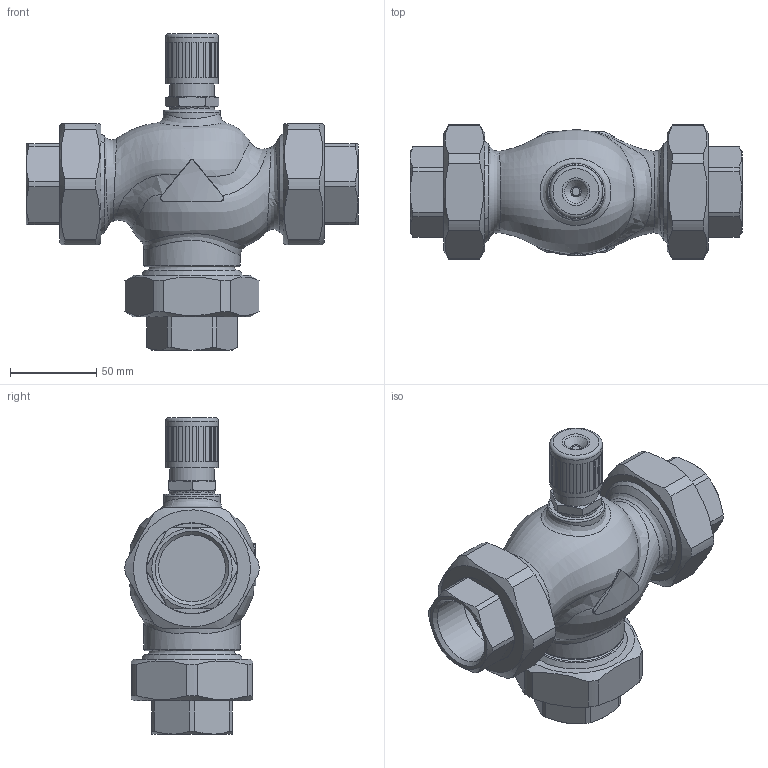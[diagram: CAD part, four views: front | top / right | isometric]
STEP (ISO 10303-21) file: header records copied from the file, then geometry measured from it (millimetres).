
FILE_DESCRIPTION(/* description */ (''),/* implementation_level */ '2;1');
FILE_NAME(/* name */ 'rv111r_dn32_3_T.stp',/* time_stamp */ '2012-02-21T13:35:29+01:00',/* author */ ('KLIMES'),/* organization */ ('LDM'),/* preprocessor_version */ 'ST-DEVELOPER v11',/* originating_system */ 'SIEMENS PLM Software NX 7.0',/* authorisation */ '');
FILE_SCHEMA (('CONFIG_CONTROL_DESIGN'));
Length unit declared in the file: millimetre
Products named in the file (1): klim56BEqbq9
Bounding box: 193 x 77.97 x 184.05 mm (x, y, z)
Volume: 707205.1 mm3; surface area: 129130.5 mm2
Topology: 11 solids, 11 shells, 355 faces, 833 edges, 541 vertices
Faces by surface type: plane 199, cone 59, cylinder 57, bspline 25, torus 15
Full cylindrical faces by diameter (mm): 8 x1, 23.4 x1, 24.117 x1, 26 x1, 26.5 x1, 30.8 x1, 33 x1, 38.952 x3, 44 x6, 52.6 x3, 53 x3, 56 x4, 56.3 x3, 56.656 x3, 59.614 x3
Entity records: 15514 total; most frequent: CARTESIAN_POINT 7839, DIRECTION 1560, ORIENTED_EDGE 1450, EDGE_CURVE 725, AXIS2_PLACEMENT_3D 633, VERTEX_POINT 509, EDGE_LOOP 490, ADVANCED_FACE 355
